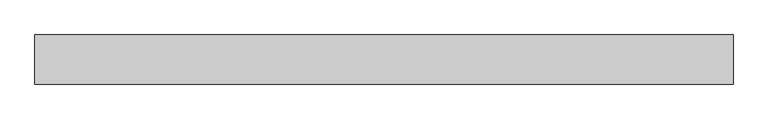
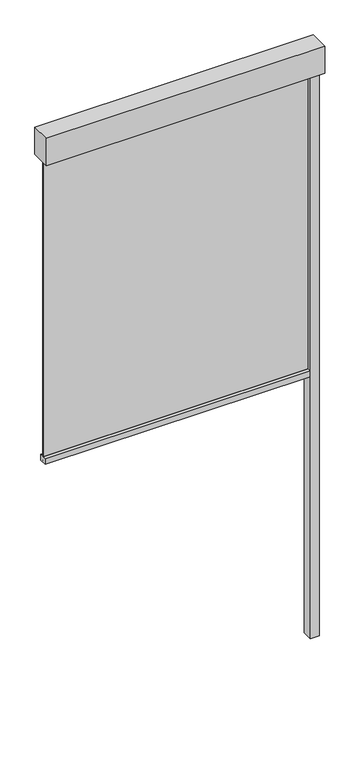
"""IFC4 building model written with IfcOpenShell, lengths in millimetres: proxy geometry, Renson_Fixscreen_Minimal_CW50_End : For curtain wall - End element - Access downwards - Fabric close to the window."""

from ifc_helpers import new_model, si_unit, point, frame, frame_2d, origin, origin_with_axes, place, context, project, spatial, polyline, circle_curve, trimmed, segment, composite_curve, outline, extrude, source, transform, mapped, element, save


def generic_models_59065b77(model_context):
    return source(origin(), model_context, "Body", "SweptSolid", [
        extrude(outline(polyline([(530.0, -693.5959909), (530.0, -751.5959909), (480.0, -751.5959909), (480.0, -693.5959909), (530.0, -693.5959909)])), origin_with_axes(), (0.0, 0.0, 1.0), 3340.0),
        extrude(outline(polyline([(-1020.0, -693.5959909), (530.0, -693.5959909), (530.0, -803.5959909), (-1020.0, -803.5959909), (-1020.0, -693.5959909)])), frame((0.0, 0.0, 3340.0), z_axis=(0.0, 0.0, 1.0), x_axis=(1.0, 0.0, 0.0)), (0.0, 0.0, 1.0), 160.0),
        extrude(outline(composite_curve([segment(polyline([(-708.5959909, 1540.0), (-749.0958874, 1540.0), (-749.0958874, 1574.1156826), (-731.9717779, 1575.0000198)]), True, "CONTINUOUS"), segment(trimmed(circle_curve(frame_2d((-731.9459909, 1574.5006852)), 0.5), [point((-731.9717779, 1575.0000198))], [point((-731.4459909, 1574.5006852))], False, "CARTESIAN"), True, "CONTINUOUS"), segment(polyline([(-731.4459909, 1574.5006852), (-731.4459909, 1573.5367989), (-732.7111292, 1573.5367989), (-731.9708257, 1569.0119223)]), True, "CONTINUOUS"), segment(trimmed(circle_curve(frame_2d((-771.4459909, 1562.5534911)), 40.0), [point((-731.9708257, 1569.0119223))], [point((-731.4459909, 1562.5534911))], False, "CARTESIAN"), True, "CONTINUOUS"), segment(polyline([(-731.4459909, 1562.5534911), (-731.4459909, 1554.5006852)]), True, "CONTINUOUS"), segment(trimmed(circle_curve(frame_2d((-729.4459909, 1554.5006852)), 2.0), [point((-731.4459909, 1554.5006852))], [point((-729.4459909, 1552.5006852))], True, "CARTESIAN"), True, "CONTINUOUS"), segment(polyline([(-729.4459909, 1552.5006852), (-727.7459909, 1552.5006852)]), True, "CONTINUOUS"), segment(trimmed(circle_curve(frame_2d((-727.7459909, 1554.5006852)), 2.0), [point((-727.7459909, 1552.5006852))], [point((-725.7459909, 1554.5006852))], True, "CARTESIAN"), True, "CONTINUOUS"), segment(polyline([(-725.7459909, 1554.5006852), (-725.7459909, 1562.5534911)]), True, "CONTINUOUS"), segment(trimmed(circle_curve(frame_2d((-685.7459909, 1562.5534911)), 40.0), [point((-725.7459909, 1562.5534911))], [point((-725.221156, 1569.0119223))], False, "CARTESIAN"), True, "CONTINUOUS"), segment(polyline([(-725.221156, 1569.0119223), (-724.4808525, 1573.5367989), (-725.7459909, 1573.5367989), (-725.7459909, 1574.5006852)]), True, "CONTINUOUS"), segment(trimmed(circle_curve(frame_2d((-725.2459909, 1574.5006852)), 0.5), [point((-725.7459909, 1574.5006852))], [point((-725.2194276, 1574.9999791))], False, "CARTESIAN"), True, "CONTINUOUS"), segment(polyline([(-725.2194276, 1574.9999791), (-708.5959909, 1574.1156826), (-708.5959909, 1540.0)]), True, "CONTINUOUS")], self_intersect=False)), frame((-995.0, 0.0, 0.0), z_axis=(1.0, 0.0, 0.0), x_axis=(0.0, 1.0, 0.0)), (0.0, 0.0, 1.0), 1475.0),
        extrude(outline(polyline([(-995.0, -730.0959909), (-995.0, -727.0959909), (480.0, -727.0959909), (480.0, -730.0959909), (-995.0, -730.0959909)])), frame((0.0, 0.0, 1552.5006852), z_axis=(0.0, 0.0, 1.0), x_axis=(1.0, 0.0, 0.0)), (0.0, 0.0, 1.0), 1787.4993148),
    ])


if __name__ == "__main__":
    model = new_model("IFC4")
    model_context = context("Model", 3, world=origin())
    ifc_project = project(units=[si_unit("LENGTHUNIT", "METRE", prefix="MILLI")], contexts=[model_context])
    site = spatial("IfcSite", under=ifc_project)
    building = spatial("IfcBuilding", under=site)
    placement = place(None, origin())
    generic_models_shape = generic_models_59065b77(model_context)
    element("IfcBuildingElementProxy", 1, Name="Renson_Fixscreen_Minimal_CW50_End : For curtain wall - End element - Access downwards - Fabric close to the window", ObjectType="Renson_Fixscreen_Minimal_CW50_End : For curtain wall - End element - Access downwards - Fabric close to the window", at=placement, inside=building, context=model_context, shape_type="MappedRepresentation", body=[
        mapped(generic_models_shape, transform((0.0, 0.0, 0.0), x_axis=(1.0, 0.0, 0.0), y_axis=(0.0, 1.0, 0.0), z_axis=(0.0, 0.0, 1.0))),
    ])
    save(model, "model.ifc")
